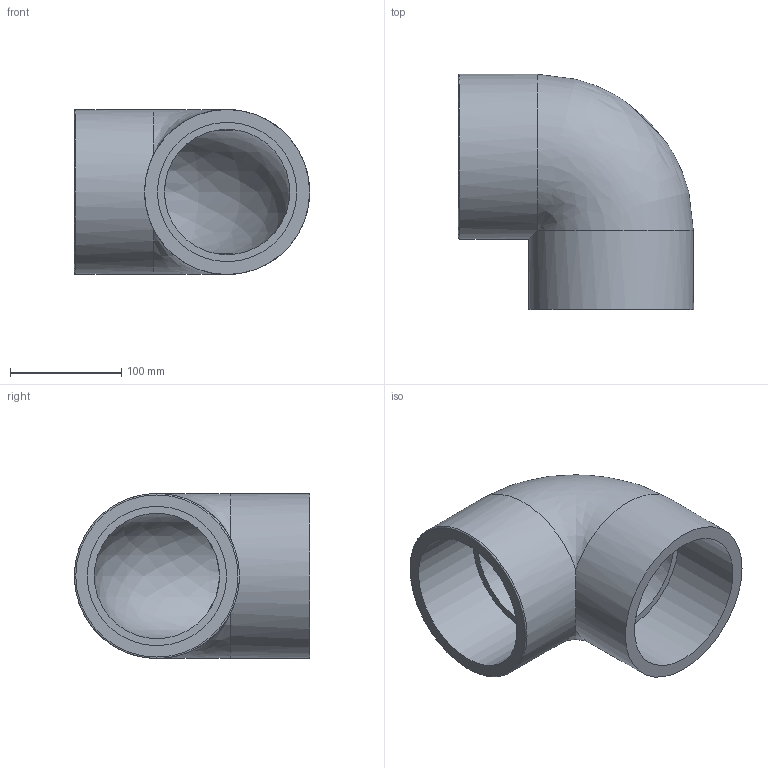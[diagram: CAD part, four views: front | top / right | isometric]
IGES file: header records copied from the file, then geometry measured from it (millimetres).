
Global section: file name: 050500125.ipt; native system: Autodesk Inventor 2015; preprocessor: unknown; author: KIM; date: 20171207.164624; units: millimetre
Bounding box: 211 x 211 x 148 mm (x, y, z)
Volume: 1490884.6 mm3; surface area: 220378.8 mm2
Topology: 1 solids, 1 shells, 11 faces, 26 edges, 17 vertices
Faces by surface type: revolution 4, plane 4, cylinder 2, bspline 1
Full cylindrical faces by diameter (mm): 148 x2
